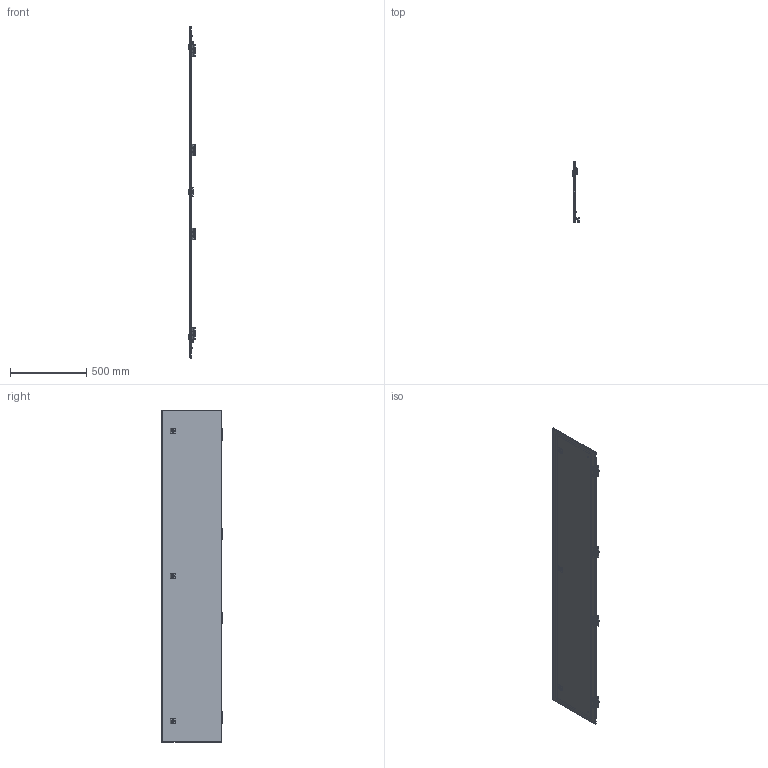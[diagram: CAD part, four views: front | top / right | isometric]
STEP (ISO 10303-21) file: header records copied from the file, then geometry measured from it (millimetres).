
FILE_DESCRIPTION(('STEP AP203'), '1');
FILE_NAME('3634 Äâåðü ñåêöèîííàÿ íà âñþ âûñîòó ÑÁ', '', ('UNSPECIFIED'), ('UNSPECIFIED'), 'C3D Converter', 'C3D Toolkit', '');
FILE_SCHEMA(('CONFIG_CONTROL_DESIGN'));
Length unit declared in the file: millimetre
Products named in the file (15): 3634.220.40; 3635.для сайта; 3636.на сайт; 3422.01; 3009.05; 3009.05.01; 3622.01; _2420.000_p1; 3656
Assembly tree (37 placements, depth 3):
  3634.220.40
    3635.для сайта
      3636.на сайт
      (unnamed)  x2
      3422.01  x4
    3009.05  x4
      3009.05.01
      (unnamed)
      (unnamed)
    3622.01  x4
    (unnamed)  x4
    (unnamed)  x6
    (unnamed)  x3
      _2420.000_p1
    3656  x3
Bounding box: 43 x 395.03 x 2171 mm (x, y, z)
Volume: 1944073.4 mm3; surface area: 2153814.8 mm2
Topology: 44 solids, 44 shells, 1801 faces, 4793 edges, 3144 vertices
Faces by surface type: plane 1223, cylinder 487, cone 62, torus 13, bspline 12, sphere 4
Full cylindrical faces by diameter (mm): 3 x3, 4.134 x4, 5 x18, 5.8 x4, 6 x14, 6.1 x4, 7.5 x14, 9.2 x14, 9.3 x3, 10 x3, 10.5 x4, 11.5 x4, 12 x4, 20 x3
Entity records: 23594 total; most frequent: CARTESIAN_POINT 6077, DIRECTION 3055, ORIENTED_EDGE 2932, EDGE_CURVE 1466, LINE 1065, VECTOR 1065, AXIS2_PLACEMENT_3D 995, VERTEX_POINT 961
